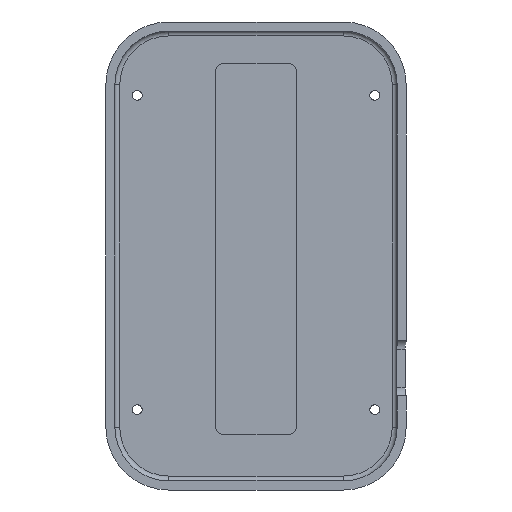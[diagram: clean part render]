
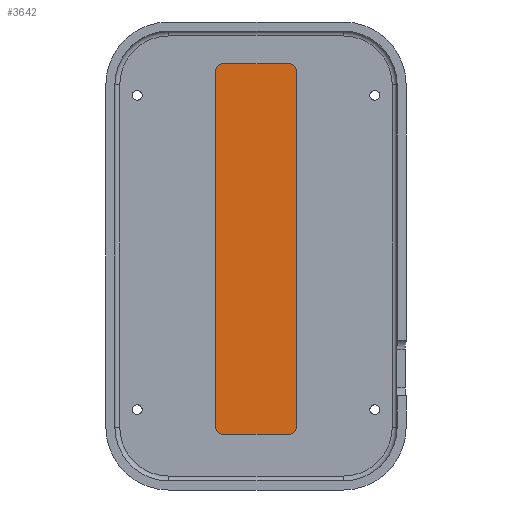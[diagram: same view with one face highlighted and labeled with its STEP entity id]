
A CAD part, top view. The second image highlights one B-rep face of the part: STEP entity #3642.
In plain terms, the highlighted planar face has unit normal (0, 0, 1).
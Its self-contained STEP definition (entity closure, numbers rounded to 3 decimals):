
#2865 = CYLINDRICAL_SURFACE('',#2866,2.);
#2866 = AXIS2_PLACEMENT_3D('',#2867,#2868,#2869);
#2867 = CARTESIAN_POINT('',(-9.5,-49.,-10.95));
#2868 = DIRECTION('',(0.,0.,1.));
#2869 = DIRECTION('',(-1.,-0.,0.));
#2892 = PLANE('',#2893);
#2893 = AXIS2_PLACEMENT_3D('',#2894,#2895,#2896);
#2894 = CARTESIAN_POINT('',(-11.5,-51.,-10.95));
#2895 = DIRECTION('',(1.,0.,0.));
#2896 = DIRECTION('',(0.,0.,1.));
#2920 = CYLINDRICAL_SURFACE('',#2921,2.);
#2921 = AXIS2_PLACEMENT_3D('',#2922,#2923,#2924);
#2922 = CARTESIAN_POINT('',(-9.5,53.,-10.95));
#2923 = DIRECTION('',(0.,0.,1.));
#2924 = DIRECTION('',(-1.,-0.,0.));
#2947 = PLANE('',#2948);
#2948 = AXIS2_PLACEMENT_3D('',#2949,#2950,#2951);
#2949 = CARTESIAN_POINT('',(-11.5,55.,-10.95));
#2950 = DIRECTION('',(0.,1.,0.));
#2951 = DIRECTION('',(0.,0.,1.));
#2975 = CYLINDRICAL_SURFACE('',#2976,2.);
#2976 = AXIS2_PLACEMENT_3D('',#2977,#2978,#2979);
#2977 = CARTESIAN_POINT('',(9.5,53.,-10.95));
#2978 = DIRECTION('',(0.,0.,1.));
#2979 = DIRECTION('',(1.,0.,-0.));
#3002 = PLANE('',#3003);
#3003 = AXIS2_PLACEMENT_3D('',#3004,#3005,#3006);
#3004 = CARTESIAN_POINT('',(11.5,-51.,-10.95));
#3005 = DIRECTION('',(1.,0.,0.));
#3006 = DIRECTION('',(0.,0.,1.));
#3030 = CYLINDRICAL_SURFACE('',#3031,2.);
#3031 = AXIS2_PLACEMENT_3D('',#3032,#3033,#3034);
#3032 = CARTESIAN_POINT('',(9.5,-49.,-10.95));
#3033 = DIRECTION('',(0.,0.,1.));
#3034 = DIRECTION('',(1.,0.,-0.));
#3055 = PLANE('',#3056);
#3056 = AXIS2_PLACEMENT_3D('',#3057,#3058,#3059);
#3057 = CARTESIAN_POINT('',(-11.5,-51.,-10.95));
#3058 = DIRECTION('',(0.,1.,0.));
#3059 = DIRECTION('',(0.,0.,1.));
#3238 = VERTEX_POINT('',#3239);
#3239 = CARTESIAN_POINT('',(-11.5,-49.,-10.3));
#3262 = VERTEX_POINT('',#3263);
#3263 = CARTESIAN_POINT('',(-9.5,-51.,-10.3));
#3284 = EDGE_CURVE('',#3238,#3262,#3285,.T.);
#3285 = SURFACE_CURVE('',#3286,(#3291,#3298),.PCURVE_S1.);
#3286 = CIRCLE('',#3287,2.);
#3287 = AXIS2_PLACEMENT_3D('',#3288,#3289,#3290);
#3288 = CARTESIAN_POINT('',(-9.5,-49.,-10.3));
#3289 = DIRECTION('',(0.,0.,1.));
#3290 = DIRECTION('',(0.,-1.,0.));
#3291 = PCURVE('',#2865,#3292);
#3292 = DEFINITIONAL_REPRESENTATION('',(#3293),#3297);
#3293 = LINE('',#3294,#3295);
#3294 = CARTESIAN_POINT('',(-4.712,0.65));
#3295 = VECTOR('',#3296,1.);
#3296 = DIRECTION('',(1.,0.));
#3297 = ( GEOMETRIC_REPRESENTATION_CONTEXT(2) 
PARAMETRIC_REPRESENTATION_CONTEXT() REPRESENTATION_CONTEXT('2D SPACE',''
  ) );
#3298 = PCURVE('',#3299,#3304);
#3299 = PLANE('',#3300);
#3300 = AXIS2_PLACEMENT_3D('',#3301,#3302,#3303);
#3301 = CARTESIAN_POINT('',(-11.5,-51.,-10.3));
#3302 = DIRECTION('',(0.,0.,1.));
#3303 = DIRECTION('',(1.,0.,0.));
#3304 = DEFINITIONAL_REPRESENTATION('',(#3305),#3309);
#3305 = CIRCLE('',#3306,2.);
#3306 = AXIS2_PLACEMENT_2D('',#3307,#3308);
#3307 = CARTESIAN_POINT('',(2.,2.));
#3308 = DIRECTION('',(0.,-1.));
#3309 = ( GEOMETRIC_REPRESENTATION_CONTEXT(2) 
PARAMETRIC_REPRESENTATION_CONTEXT() REPRESENTATION_CONTEXT('2D SPACE',''
  ) );
#3316 = EDGE_CURVE('',#3262,#3317,#3319,.T.);
#3317 = VERTEX_POINT('',#3318);
#3318 = CARTESIAN_POINT('',(9.5,-51.,-10.3));
#3319 = SURFACE_CURVE('',#3320,(#3324,#3331),.PCURVE_S1.);
#3320 = LINE('',#3321,#3322);
#3321 = CARTESIAN_POINT('',(-11.5,-51.,-10.3));
#3322 = VECTOR('',#3323,1.);
#3323 = DIRECTION('',(1.,0.,0.));
#3324 = PCURVE('',#3055,#3325);
#3325 = DEFINITIONAL_REPRESENTATION('',(#3326),#3330);
#3326 = LINE('',#3327,#3328);
#3327 = CARTESIAN_POINT('',(0.65,0.));
#3328 = VECTOR('',#3329,1.);
#3329 = DIRECTION('',(0.,1.));
#3330 = ( GEOMETRIC_REPRESENTATION_CONTEXT(2) 
PARAMETRIC_REPRESENTATION_CONTEXT() REPRESENTATION_CONTEXT('2D SPACE',''
  ) );
#3331 = PCURVE('',#3299,#3332);
#3332 = DEFINITIONAL_REPRESENTATION('',(#3333),#3337);
#3333 = LINE('',#3334,#3335);
#3334 = CARTESIAN_POINT('',(0.,0.));
#3335 = VECTOR('',#3336,1.);
#3336 = DIRECTION('',(1.,0.));
#3337 = ( GEOMETRIC_REPRESENTATION_CONTEXT(2) 
PARAMETRIC_REPRESENTATION_CONTEXT() REPRESENTATION_CONTEXT('2D SPACE',''
  ) );
#3364 = VERTEX_POINT('',#3365);
#3365 = CARTESIAN_POINT('',(11.5,-49.,-10.3));
#3388 = EDGE_CURVE('',#3364,#3317,#3389,.T.);
#3389 = SURFACE_CURVE('',#3390,(#3395,#3402),.PCURVE_S1.);
#3390 = CIRCLE('',#3391,2.);
#3391 = AXIS2_PLACEMENT_3D('',#3392,#3393,#3394);
#3392 = CARTESIAN_POINT('',(9.5,-49.,-10.3));
#3393 = DIRECTION('',(-0.,-0.,-1.));
#3394 = DIRECTION('',(0.,-1.,0.));
#3395 = PCURVE('',#3030,#3396);
#3396 = DEFINITIONAL_REPRESENTATION('',(#3397),#3401);
#3397 = LINE('',#3398,#3399);
#3398 = CARTESIAN_POINT('',(4.712,0.65));
#3399 = VECTOR('',#3400,1.);
#3400 = DIRECTION('',(-1.,0.));
#3401 = ( GEOMETRIC_REPRESENTATION_CONTEXT(2) 
PARAMETRIC_REPRESENTATION_CONTEXT() REPRESENTATION_CONTEXT('2D SPACE',''
  ) );
#3402 = PCURVE('',#3299,#3403);
#3403 = DEFINITIONAL_REPRESENTATION('',(#3404),#3412);
#3404 = ( BOUNDED_CURVE() B_SPLINE_CURVE(2,(#3405,#3406,#3407,#3408,
#3409,#3410,#3411),.UNSPECIFIED.,.T.,.F.) B_SPLINE_CURVE_WITH_KNOTS((1,2
    ,2,2,2,1),(-2.094,0.,2.094,4.189,
6.283,8.378),.UNSPECIFIED.) CURVE() 
GEOMETRIC_REPRESENTATION_ITEM() RATIONAL_B_SPLINE_CURVE((1.,0.5,1.,0.5,
1.,0.5,1.)) REPRESENTATION_ITEM('') );
#3405 = CARTESIAN_POINT('',(21.,0.));
#3406 = CARTESIAN_POINT('',(17.536,0.));
#3407 = CARTESIAN_POINT('',(19.268,3.));
#3408 = CARTESIAN_POINT('',(21.,6.));
#3409 = CARTESIAN_POINT('',(22.732,3.));
#3410 = CARTESIAN_POINT('',(24.464,0.));
#3411 = CARTESIAN_POINT('',(21.,0.));
#3412 = ( GEOMETRIC_REPRESENTATION_CONTEXT(2) 
PARAMETRIC_REPRESENTATION_CONTEXT() REPRESENTATION_CONTEXT('2D SPACE',''
  ) );
#3417 = EDGE_CURVE('',#3364,#3418,#3420,.T.);
#3418 = VERTEX_POINT('',#3419);
#3419 = CARTESIAN_POINT('',(11.5,53.,-10.3));
#3420 = SURFACE_CURVE('',#3421,(#3425,#3432),.PCURVE_S1.);
#3421 = LINE('',#3422,#3423);
#3422 = CARTESIAN_POINT('',(11.5,-51.,-10.3));
#3423 = VECTOR('',#3424,1.);
#3424 = DIRECTION('',(0.,1.,0.));
#3425 = PCURVE('',#3002,#3426);
#3426 = DEFINITIONAL_REPRESENTATION('',(#3427),#3431);
#3427 = LINE('',#3428,#3429);
#3428 = CARTESIAN_POINT('',(0.65,0.));
#3429 = VECTOR('',#3430,1.);
#3430 = DIRECTION('',(0.,-1.));
#3431 = ( GEOMETRIC_REPRESENTATION_CONTEXT(2) 
PARAMETRIC_REPRESENTATION_CONTEXT() REPRESENTATION_CONTEXT('2D SPACE',''
  ) );
#3432 = PCURVE('',#3299,#3433);
#3433 = DEFINITIONAL_REPRESENTATION('',(#3434),#3438);
#3434 = LINE('',#3435,#3436);
#3435 = CARTESIAN_POINT('',(23.,0.));
#3436 = VECTOR('',#3437,1.);
#3437 = DIRECTION('',(0.,1.));
#3438 = ( GEOMETRIC_REPRESENTATION_CONTEXT(2) 
PARAMETRIC_REPRESENTATION_CONTEXT() REPRESENTATION_CONTEXT('2D SPACE',''
  ) );
#3469 = VERTEX_POINT('',#3470);
#3470 = CARTESIAN_POINT('',(9.5,55.,-10.3));
#3491 = EDGE_CURVE('',#3418,#3469,#3492,.T.);
#3492 = SURFACE_CURVE('',#3493,(#3498,#3505),.PCURVE_S1.);
#3493 = CIRCLE('',#3494,2.);
#3494 = AXIS2_PLACEMENT_3D('',#3495,#3496,#3497);
#3495 = CARTESIAN_POINT('',(9.5,53.,-10.3));
#3496 = DIRECTION('',(0.,0.,1.));
#3497 = DIRECTION('',(0.,-1.,0.));
#3498 = PCURVE('',#2975,#3499);
#3499 = DEFINITIONAL_REPRESENTATION('',(#3500),#3504);
#3500 = LINE('',#3501,#3502);
#3501 = CARTESIAN_POINT('',(-1.571,0.65));
#3502 = VECTOR('',#3503,1.);
#3503 = DIRECTION('',(1.,0.));
#3504 = ( GEOMETRIC_REPRESENTATION_CONTEXT(2) 
PARAMETRIC_REPRESENTATION_CONTEXT() REPRESENTATION_CONTEXT('2D SPACE',''
  ) );
#3505 = PCURVE('',#3299,#3506);
#3506 = DEFINITIONAL_REPRESENTATION('',(#3507),#3511);
#3507 = CIRCLE('',#3508,2.);
#3508 = AXIS2_PLACEMENT_2D('',#3509,#3510);
#3509 = CARTESIAN_POINT('',(21.,104.));
#3510 = DIRECTION('',(0.,-1.));
#3511 = ( GEOMETRIC_REPRESENTATION_CONTEXT(2) 
PARAMETRIC_REPRESENTATION_CONTEXT() REPRESENTATION_CONTEXT('2D SPACE',''
  ) );
#3518 = VERTEX_POINT('',#3519);
#3519 = CARTESIAN_POINT('',(-9.5,55.,-10.3));
#3540 = EDGE_CURVE('',#3518,#3469,#3541,.T.);
#3541 = SURFACE_CURVE('',#3542,(#3546,#3553),.PCURVE_S1.);
#3542 = LINE('',#3543,#3544);
#3543 = CARTESIAN_POINT('',(-11.5,55.,-10.3));
#3544 = VECTOR('',#3545,1.);
#3545 = DIRECTION('',(1.,0.,0.));
#3546 = PCURVE('',#2947,#3547);
#3547 = DEFINITIONAL_REPRESENTATION('',(#3548),#3552);
#3548 = LINE('',#3549,#3550);
#3549 = CARTESIAN_POINT('',(0.65,0.));
#3550 = VECTOR('',#3551,1.);
#3551 = DIRECTION('',(0.,1.));
#3552 = ( GEOMETRIC_REPRESENTATION_CONTEXT(2) 
PARAMETRIC_REPRESENTATION_CONTEXT() REPRESENTATION_CONTEXT('2D SPACE',''
  ) );
#3553 = PCURVE('',#3299,#3554);
#3554 = DEFINITIONAL_REPRESENTATION('',(#3555),#3559);
#3555 = LINE('',#3556,#3557);
#3556 = CARTESIAN_POINT('',(0.,106.));
#3557 = VECTOR('',#3558,1.);
#3558 = DIRECTION('',(1.,0.));
#3559 = ( GEOMETRIC_REPRESENTATION_CONTEXT(2) 
PARAMETRIC_REPRESENTATION_CONTEXT() REPRESENTATION_CONTEXT('2D SPACE',''
  ) );
#3566 = VERTEX_POINT('',#3567);
#3567 = CARTESIAN_POINT('',(-11.5,53.,-10.3));
#3590 = EDGE_CURVE('',#3566,#3518,#3591,.T.);
#3591 = SURFACE_CURVE('',#3592,(#3597,#3604),.PCURVE_S1.);
#3592 = CIRCLE('',#3593,2.);
#3593 = AXIS2_PLACEMENT_3D('',#3594,#3595,#3596);
#3594 = CARTESIAN_POINT('',(-9.5,53.,-10.3));
#3595 = DIRECTION('',(-0.,-0.,-1.));
#3596 = DIRECTION('',(0.,-1.,0.));
#3597 = PCURVE('',#2920,#3598);
#3598 = DEFINITIONAL_REPRESENTATION('',(#3599),#3603);
#3599 = LINE('',#3600,#3601);
#3600 = CARTESIAN_POINT('',(1.571,0.65));
#3601 = VECTOR('',#3602,1.);
#3602 = DIRECTION('',(-1.,0.));
#3603 = ( GEOMETRIC_REPRESENTATION_CONTEXT(2) 
PARAMETRIC_REPRESENTATION_CONTEXT() REPRESENTATION_CONTEXT('2D SPACE',''
  ) );
#3604 = PCURVE('',#3299,#3605);
#3605 = DEFINITIONAL_REPRESENTATION('',(#3606),#3614);
#3606 = ( BOUNDED_CURVE() B_SPLINE_CURVE(2,(#3607,#3608,#3609,#3610,
#3611,#3612,#3613),.UNSPECIFIED.,.T.,.F.) B_SPLINE_CURVE_WITH_KNOTS((1,2
    ,2,2,2,1),(-2.094,0.,2.094,4.189,
6.283,8.378),.UNSPECIFIED.) CURVE() 
GEOMETRIC_REPRESENTATION_ITEM() RATIONAL_B_SPLINE_CURVE((1.,0.5,1.,0.5,
1.,0.5,1.)) REPRESENTATION_ITEM('') );
#3607 = CARTESIAN_POINT('',(2.,102.));
#3608 = CARTESIAN_POINT('',(-1.464,102.));
#3609 = CARTESIAN_POINT('',(0.268,105.));
#3610 = CARTESIAN_POINT('',(2.,108.));
#3611 = CARTESIAN_POINT('',(3.732,105.));
#3612 = CARTESIAN_POINT('',(5.464,102.));
#3613 = CARTESIAN_POINT('',(2.,102.));
#3614 = ( GEOMETRIC_REPRESENTATION_CONTEXT(2) 
PARAMETRIC_REPRESENTATION_CONTEXT() REPRESENTATION_CONTEXT('2D SPACE',''
  ) );
#3619 = EDGE_CURVE('',#3238,#3566,#3620,.T.);
#3620 = SURFACE_CURVE('',#3621,(#3625,#3632),.PCURVE_S1.);
#3621 = LINE('',#3622,#3623);
#3622 = CARTESIAN_POINT('',(-11.5,-51.,-10.3));
#3623 = VECTOR('',#3624,1.);
#3624 = DIRECTION('',(0.,1.,0.));
#3625 = PCURVE('',#2892,#3626);
#3626 = DEFINITIONAL_REPRESENTATION('',(#3627),#3631);
#3627 = LINE('',#3628,#3629);
#3628 = CARTESIAN_POINT('',(0.65,0.));
#3629 = VECTOR('',#3630,1.);
#3630 = DIRECTION('',(0.,-1.));
#3631 = ( GEOMETRIC_REPRESENTATION_CONTEXT(2) 
PARAMETRIC_REPRESENTATION_CONTEXT() REPRESENTATION_CONTEXT('2D SPACE',''
  ) );
#3632 = PCURVE('',#3299,#3633);
#3633 = DEFINITIONAL_REPRESENTATION('',(#3634),#3638);
#3634 = LINE('',#3635,#3636);
#3635 = CARTESIAN_POINT('',(0.,0.));
#3636 = VECTOR('',#3637,1.);
#3637 = DIRECTION('',(0.,1.));
#3638 = ( GEOMETRIC_REPRESENTATION_CONTEXT(2) 
PARAMETRIC_REPRESENTATION_CONTEXT() REPRESENTATION_CONTEXT('2D SPACE',''
  ) );
#3642 = ADVANCED_FACE('',(#3643),#3299,.T.);
#3643 = FACE_BOUND('',#3644,.T.);
#3644 = EDGE_LOOP('',(#3645,#3646,#3647,#3648,#3649,#3650,#3651,#3652));
#3645 = ORIENTED_EDGE('',*,*,#3619,.F.);
#3646 = ORIENTED_EDGE('',*,*,#3284,.T.);
#3647 = ORIENTED_EDGE('',*,*,#3316,.T.);
#3648 = ORIENTED_EDGE('',*,*,#3388,.F.);
#3649 = ORIENTED_EDGE('',*,*,#3417,.T.);
#3650 = ORIENTED_EDGE('',*,*,#3491,.T.);
#3651 = ORIENTED_EDGE('',*,*,#3540,.F.);
#3652 = ORIENTED_EDGE('',*,*,#3590,.F.);
